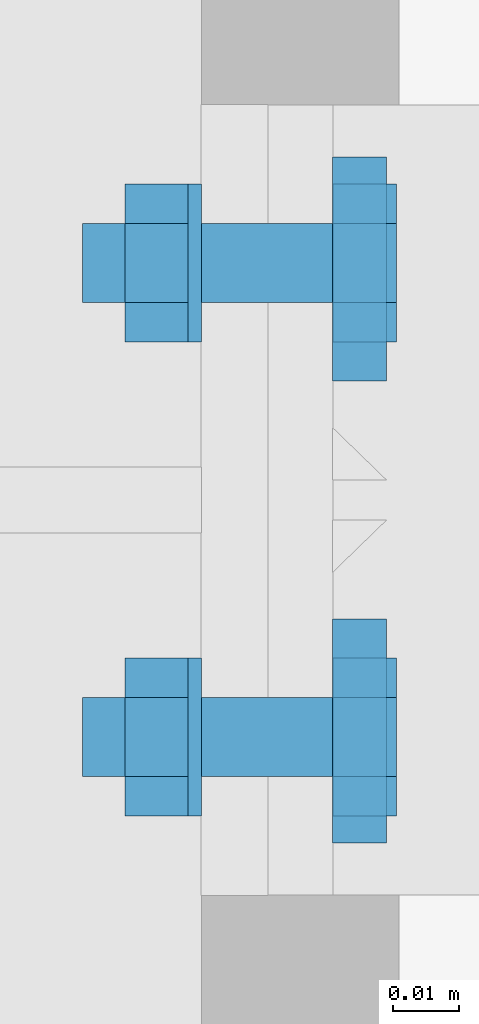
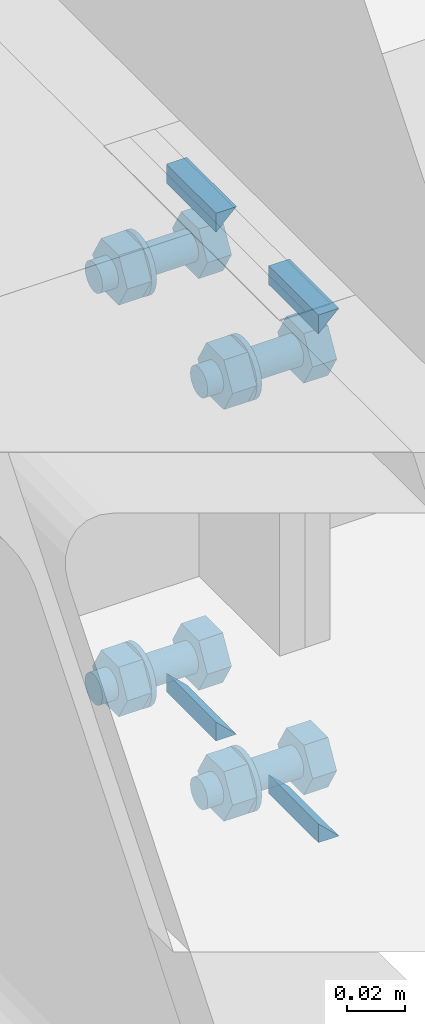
# One storey, part 28 of 66: 16 mechanical fasteners, 8 fasteners.
"""IFC4 building model written with IfcOpenShell, lengths in metres."""

from ifc_helpers import new_model, si_unit, frame, origin_with_axes, place, context, project, spatial, polyline, outline, extrude, type_object, element, save


model = new_model("IFC4")

# Units and contexts
model_context = context("Model", 3, precision=1e-05, world=origin_with_axes())
ifc_project = project(units=[si_unit("LENGTHUNIT", "METRE"), si_unit("AREAUNIT", "SQUARE_METRE"), si_unit("VOLUMEUNIT", "CUBIC_METRE"), si_unit("MASSUNIT", "GRAM", prefix="KILO"), si_unit("TIMEUNIT", "SECOND"), si_unit("PLANEANGLEUNIT", "RADIAN"), si_unit("SOLIDANGLEUNIT", "STERADIAN"), si_unit("THERMODYNAMICTEMPERATUREUNIT", "DEGREE_CELSIUS")], contexts=[model_context])

# Site, building, storey
placement_1 = place(None, origin_with_axes())
site = spatial("IfcSite", under=ifc_project, at=placement_1, Name="Italia", CompositionType="ELEMENT")
building = spatial("IfcBuilding", under=site, at=placement_1, Name="Uffici", CompositionType="ELEMENT")
storey_placement = place(None, frame((0.0, 0.0, 3.299999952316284), z_axis=(0.0, 0.0, 1.0), x_axis=(1.0, 0.0, 0.0)))
storey = spatial("IfcBuildingStorey", under=building, at=storey_placement, Name="Storey 1", CompositionType="ELEMENT", Elevation=3.299999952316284)

# Fasteners
fastener_type_1 = type_object("IfcFastenerType", Name="Collegamento -001_-002", PredefinedType="WELD")
placement_2 = place(placement_1, origin_with_axes())
fastener_1_placement = place(placement_2, origin_with_axes())
element("IfcFastener", 1, at=fastener_1_placement, inside=storey, type_object=fastener_type_1, Name="Collegamento -001_-002", context=model_context, shape_type="SweptSolid", body=[
    extrude(outline(polyline([(0.0, 0.0), (-0.00817336, 0.00792813), (0.0, 0.00792813), (0.0, 0.0)])), frame((0.13995, 1.74462, 3.28232), z_axis=(0.0, 1.0, 0.0), x_axis=(-1.0, 0.0, 0.0)), (0.0, 0.0, 1.0), 0.0339999),
])
fastener_type_2 = type_object("IfcFastenerType", Name="Collegamento -001_-002", PredefinedType="WELD")
fastener_2_placement = place(placement_2, origin_with_axes())
element("IfcFastener", 2, at=fastener_2_placement, inside=storey, type_object=fastener_type_2, Name="Collegamento -001_-002", context=model_context, shape_type="SweptSolid", body=[
    extrude(outline(polyline([(0.0, 0.0), (0.00817336, -0.00792813), (0.0, -0.00792813), (0.0, 0.0)])), frame((0.13995, 1.77862, 3.07768), z_axis=(0.0, -1.0, 0.0), x_axis=(1.0, 0.0, 0.0)), (0.0, 0.0, 1.0), 0.0339999),
])
fastener_type_3 = type_object("IfcFastenerType", Name="Collegamento -001_-002", PredefinedType="WELD")
fastener_3_placement = place(placement_2, origin_with_axes())
element("IfcFastener", 3, at=fastener_3_placement, inside=storey, type_object=fastener_type_3, Name="Collegamento -001_-002", context=model_context, shape_type="SweptSolid", body=[
    extrude(outline(polyline([(0.0, 0.0), (0.00817336, -0.00792813), (0.0, -0.00792813), (0.0, 0.0)])), frame((0.13995, 1.84872, 3.07768), z_axis=(0.0, -1.0, 0.0), x_axis=(1.0, 0.0, 0.0)), (0.0, 0.0, 1.0), 0.0339999),
])
fastener_type_4 = type_object("IfcFastenerType", Name="Collegamento -001_-002", PredefinedType="WELD")
fastener_4_placement = place(placement_2, origin_with_axes())
element("IfcFastener", 4, at=fastener_4_placement, inside=storey, type_object=fastener_type_4, Name="Collegamento -001_-002", context=model_context, shape_type="SweptSolid", body=[
    extrude(outline(polyline([(0.0, 0.0), (-0.00817336, 0.00792813), (0.0, 0.00792813), (0.0, 0.0)])), frame((0.13995, 1.81472, 3.28232), z_axis=(0.0, 1.0, 0.0), x_axis=(-1.0, 0.0, 0.0)), (0.0, 0.0, 1.0), 0.0339999),
])
fastener_type_5 = type_object("IfcFastenerType", Name="Collegamento -001_-002", PredefinedType="WELD")
fastener_5_placement = place(placement_2, origin_with_axes())
element("IfcFastener", 5, at=fastener_5_placement, inside=storey, type_object=fastener_type_5, Name="Collegamento -001_-002", context=model_context, shape_type="SweptSolid", body=[
    extrude(outline(polyline([(0.0, 0.0), (-0.00817336, 0.00792813), (0.0, 0.00792813), (0.0, 0.0)])), frame((0.13995, 1.74462, 3.28232), z_axis=(0.0, 1.0, 0.0), x_axis=(-1.0, 0.0, 0.0)), (0.0, 0.0, 1.0), 0.0339999),
])
fastener_type_6 = type_object("IfcFastenerType", Name="Collegamento -001_-002", PredefinedType="WELD")
fastener_6_placement = place(placement_2, origin_with_axes())
element("IfcFastener", 6, at=fastener_6_placement, inside=storey, type_object=fastener_type_6, Name="Collegamento -001_-002", context=model_context, shape_type="SweptSolid", body=[
    extrude(outline(polyline([(0.0, 0.0), (0.00817336, -0.00792813), (0.0, -0.00792813), (0.0, 0.0)])), frame((0.13995, 1.77862, 3.07768), z_axis=(0.0, -1.0, 0.0), x_axis=(1.0, 0.0, 0.0)), (0.0, 0.0, 1.0), 0.0339999),
])
fastener_type_7 = type_object("IfcFastenerType", Name="Collegamento -001_-002", PredefinedType="WELD")
fastener_7_placement = place(placement_2, origin_with_axes())
element("IfcFastener", 7, at=fastener_7_placement, inside=storey, type_object=fastener_type_7, Name="Collegamento -001_-002", context=model_context, shape_type="SweptSolid", body=[
    extrude(outline(polyline([(0.0, 0.0), (0.00817336, -0.00792813), (0.0, -0.00792813), (0.0, 0.0)])), frame((0.13995, 1.84872, 3.07768), z_axis=(0.0, -1.0, 0.0), x_axis=(1.0, 0.0, 0.0)), (0.0, 0.0, 1.0), 0.0339999),
])
fastener_type_8 = type_object("IfcFastenerType", Name="Collegamento -001_-002", PredefinedType="WELD")
fastener_8_placement = place(placement_2, origin_with_axes())
element("IfcFastener", 8, at=fastener_8_placement, inside=storey, type_object=fastener_type_8, Name="Collegamento -001_-002", context=model_context, shape_type="SweptSolid", body=[
    extrude(outline(polyline([(0.0, 0.0), (-0.00817336, 0.00792813), (0.0, 0.00792813), (0.0, 0.0)])), frame((0.13995, 1.81472, 3.28232), z_axis=(0.0, 1.0, 0.0), x_axis=(-1.0, 0.0, 0.0)), (0.0, 0.0, 1.0), 0.0339999),
])

# Mechanical fasteners
mechanical_fastener_type_1 = type_object("IfcMechanicalFastenerType", Name="Collegamento -001_-002", PredefinedType="BOLT")
mechanical_fastener_1_placement = place(placement_2, origin_with_axes())
element("IfcMechanicalFastener", 9, at=mechanical_fastener_1_placement, inside=storey, type_object=mechanical_fastener_type_1, Name="Collegamento -001_-002", NominalDiameter=0.0119999, context=model_context, shape_type="SweptSolid", body=[
    extrude(outline(polyline([(0.0, 0.0), (-0.0120001, 0.0), (-0.018, 0.0103924), (-0.0120001, 0.0207846), (0.0, 0.0207846), (0.00599992, 0.0103924), (0.0, 0.0)])), frame((0.14, 1.76667, 3.08361), z_axis=(1.0, 0.0, 0.0), x_axis=(0.0, 1.0, 0.0)), (0.0, 0.0, 1.0), 0.0096),
])
mechanical_fastener_type_2 = type_object("IfcMechanicalFastenerType", Name="Collegamento -001_-002", PredefinedType="BOLT")
mechanical_fastener_2_placement = place(placement_2, origin_with_axes())
element("IfcMechanicalFastener", 10, at=mechanical_fastener_2_placement, inside=storey, type_object=mechanical_fastener_type_2, Name="Collegamento -001_-002", NominalDiameter=0.012, context=model_context, shape_type="SweptSolid", body=[
    extrude(outline(polyline([(0.0, 0.0), (-0.000204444, -0.00155282), (-0.000803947, -0.00300002), (-0.00175738, -0.00424266), (-0.00300002, -0.00519609), (-0.0044471, -0.00579548), (-0.00600004, -0.00600004), (-0.00755298, -0.00579548), (-0.00900006, -0.00519609), (-0.0102427, -0.00424266), (-0.0111961, -0.00300002), (-0.0117956, -0.00155282), (-0.0120001, 0.0), (-0.0117956, 0.00155282), (-0.0111961, 0.00300002), (-0.0102427, 0.00424266), (-0.00900006, 0.00519609), (-0.00755298, 0.00579548), (-0.00600004, 0.00600004), (-0.0044471, 0.00579548), (-0.00300002, 0.00519609), (-0.00175738, 0.00424266), (-0.000803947, 0.00300002), (-0.000204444, 0.00155282), (0.0, 0.0)])), frame((0.102, 1.76667, 3.094), z_axis=(1.0, 0.0, 0.0), x_axis=(0.0, 1.0, 0.0)), (0.0, 0.0, 1.0), 0.038),
])
mechanical_fastener_type_3 = type_object("IfcMechanicalFastenerType", Name="Collegamento -001_-002", PredefinedType="BOLT")
mechanical_fastener_3_placement = place(placement_2, origin_with_axes())
element("IfcMechanicalFastener", 11, at=mechanical_fastener_3_placement, inside=storey, type_object=mechanical_fastener_type_3, Name="Collegamento -001_-002", NominalDiameter=0.0119999, context=model_context, shape_type="SweptSolid", body=[
    extrude(outline(polyline([(0.0, 0.0), (-0.0120001, 0.0), (-0.018, 0.0103924), (-0.0120001, 0.0207846), (0.0, 0.0207846), (0.00599992, 0.0103924), (0.0, 0.0)])), frame((0.1084, 1.76667, 3.08361), z_axis=(1.0, 0.0, 0.0), x_axis=(0.0, 1.0, 0.0)), (0.0, 0.0, 1.0), 0.00960001),
])
mechanical_fastener_type_4 = type_object("IfcMechanicalFastenerType", Name="Collegamento -001_-002", PredefinedType="BOLT")
mechanical_fastener_4_placement = place(placement_2, origin_with_axes())
element("IfcMechanicalFastener", 12, at=mechanical_fastener_4_placement, inside=storey, type_object=mechanical_fastener_type_4, Name="Collegamento -001_-002", NominalDiameter=0.024, context=model_context, shape_type="SweptSolid", body=[
    extrude(outline(polyline([(0.0, 0.0), (-0.000408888, -0.00310588), (-0.00160766, -0.00600004), (-0.00351465, -0.00848532), (-0.00599992, -0.0103922), (-0.00889409, -0.0115912), (-0.012, -0.0120001), (-0.0151058, -0.0115912), (-0.018, -0.0103922), (-0.0204853, -0.00848532), (-0.0223923, -0.00600004), (-0.023591, -0.00310588), (-0.0239999, 0.0), (-0.023591, 0.00310588), (-0.0223923, 0.00600004), (-0.0204853, 0.00848532), (-0.018, 0.0103922), (-0.0151058, 0.0115912), (-0.012, 0.0120001), (-0.00889409, 0.0115912), (-0.00599992, 0.0103922), (-0.00351465, 0.00848532), (-0.00160766, 0.00600004), (-0.000408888, 0.00310588), (0.0, 0.0)])), frame((0.118, 1.77267, 3.094), z_axis=(1.0, 0.0, 0.0), x_axis=(0.0, 1.0, 0.0)), (0.0, 0.0, 1.0), 0.002),
])
mechanical_fastener_type_5 = type_object("IfcMechanicalFastenerType", Name="Collegamento -001_-002", PredefinedType="BOLT")
mechanical_fastener_5_placement = place(placement_2, origin_with_axes())
element("IfcMechanicalFastener", 13, at=mechanical_fastener_5_placement, inside=storey, type_object=mechanical_fastener_type_5, Name="Collegamento -001_-002", NominalDiameter=0.0119999, context=model_context, shape_type="SweptSolid", body=[
    extrude(outline(polyline([(0.0, 0.0), (-0.0120001, 0.0), (-0.018, 0.0103924), (-0.0120001, 0.0207846), (0.0, 0.0207846), (0.00599992, 0.0103924), (0.0, 0.0)])), frame((0.14, 1.83867, 3.08361), z_axis=(1.0, 0.0, 0.0), x_axis=(0.0, 1.0, 0.0)), (0.0, 0.0, 1.0), 0.0096),
])
mechanical_fastener_type_6 = type_object("IfcMechanicalFastenerType", Name="Collegamento -001_-002", PredefinedType="BOLT")
mechanical_fastener_6_placement = place(placement_2, origin_with_axes())
element("IfcMechanicalFastener", 14, at=mechanical_fastener_6_placement, inside=storey, type_object=mechanical_fastener_type_6, Name="Collegamento -001_-002", NominalDiameter=0.012, context=model_context, shape_type="SweptSolid", body=[
    extrude(outline(polyline([(0.0, 0.0), (-0.000204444, -0.00155282), (-0.000803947, -0.00300002), (-0.00175738, -0.00424266), (-0.00300002, -0.00519609), (-0.0044471, -0.00579548), (-0.00600004, -0.00600004), (-0.00755298, -0.00579548), (-0.00900006, -0.00519609), (-0.0102427, -0.00424266), (-0.0111961, -0.00300002), (-0.0117956, -0.00155282), (-0.0120001, 0.0), (-0.0117956, 0.00155282), (-0.0111961, 0.00300002), (-0.0102427, 0.00424266), (-0.00900006, 0.00519609), (-0.00755298, 0.00579548), (-0.00600004, 0.00600004), (-0.0044471, 0.00579548), (-0.00300002, 0.00519609), (-0.00175738, 0.00424266), (-0.000803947, 0.00300002), (-0.000204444, 0.00155282), (0.0, 0.0)])), frame((0.102, 1.83867, 3.094), z_axis=(1.0, 0.0, 0.0), x_axis=(0.0, 1.0, 0.0)), (0.0, 0.0, 1.0), 0.038),
])
mechanical_fastener_type_7 = type_object("IfcMechanicalFastenerType", Name="Collegamento -001_-002", PredefinedType="BOLT")
mechanical_fastener_7_placement = place(placement_2, origin_with_axes())
element("IfcMechanicalFastener", 15, at=mechanical_fastener_7_placement, inside=storey, type_object=mechanical_fastener_type_7, Name="Collegamento -001_-002", NominalDiameter=0.0119999, context=model_context, shape_type="SweptSolid", body=[
    extrude(outline(polyline([(0.0, 0.0), (-0.0120001, 0.0), (-0.018, 0.0103924), (-0.0120001, 0.0207846), (0.0, 0.0207846), (0.00599992, 0.0103924), (0.0, 0.0)])), frame((0.1084, 1.83867, 3.08361), z_axis=(1.0, 0.0, 0.0), x_axis=(0.0, 1.0, 0.0)), (0.0, 0.0, 1.0), 0.00960001),
])
mechanical_fastener_type_8 = type_object("IfcMechanicalFastenerType", Name="Collegamento -001_-002", PredefinedType="BOLT")
mechanical_fastener_8_placement = place(placement_2, origin_with_axes())
element("IfcMechanicalFastener", 16, at=mechanical_fastener_8_placement, inside=storey, type_object=mechanical_fastener_type_8, Name="Collegamento -001_-002", NominalDiameter=0.024, context=model_context, shape_type="SweptSolid", body=[
    extrude(outline(polyline([(0.0, 0.0), (-0.000408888, -0.00310588), (-0.00160766, -0.00600004), (-0.00351465, -0.00848532), (-0.00599992, -0.0103922), (-0.00889409, -0.0115912), (-0.012, -0.0120001), (-0.0151058, -0.0115912), (-0.018, -0.0103922), (-0.0204853, -0.00848532), (-0.0223923, -0.00600004), (-0.023591, -0.00310588), (-0.0239999, 0.0), (-0.023591, 0.00310588), (-0.0223923, 0.00600004), (-0.0204853, 0.00848532), (-0.018, 0.0103922), (-0.0151058, 0.0115912), (-0.012, 0.0120001), (-0.00889409, 0.0115912), (-0.00599992, 0.0103922), (-0.00351465, 0.00848532), (-0.00160766, 0.00600004), (-0.000408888, 0.00310588), (0.0, 0.0)])), frame((0.118, 1.84467, 3.094), z_axis=(1.0, 0.0, 0.0), x_axis=(0.0, 1.0, 0.0)), (0.0, 0.0, 1.0), 0.002),
])
mechanical_fastener_type_9 = type_object("IfcMechanicalFastenerType", Name="Collegamento -001_-002", PredefinedType="BOLT")
mechanical_fastener_9_placement = place(placement_2, origin_with_axes())
element("IfcMechanicalFastener", 17, at=mechanical_fastener_9_placement, inside=storey, type_object=mechanical_fastener_type_9, Name="Collegamento -001_-002", NominalDiameter=0.0119999, context=model_context, shape_type="SweptSolid", body=[
    extrude(outline(polyline([(0.0, 0.0), (-0.0120001, 0.0), (-0.018, 0.0103922), (-0.0120001, 0.0207846), (0.0, 0.0207846), (0.00599992, 0.0103922), (0.0, 0.0)])), frame((0.14, 1.76667, 3.25561), z_axis=(1.0, 0.0, 0.0), x_axis=(0.0, 1.0, 0.0)), (0.0, 0.0, 1.0), 0.0096),
])
mechanical_fastener_type_10 = type_object("IfcMechanicalFastenerType", Name="Collegamento -001_-002", PredefinedType="BOLT")
mechanical_fastener_10_placement = place(placement_2, origin_with_axes())
element("IfcMechanicalFastener", 18, at=mechanical_fastener_10_placement, inside=storey, type_object=mechanical_fastener_type_10, Name="Collegamento -001_-002", NominalDiameter=0.012, context=model_context, shape_type="SweptSolid", body=[
    extrude(outline(polyline([(0.0, 0.0), (-0.000204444, -0.00155282), (-0.000803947, -0.00300002), (-0.00175738, -0.00424266), (-0.00300002, -0.00519609), (-0.0044471, -0.00579548), (-0.00600004, -0.00600004), (-0.00755298, -0.00579548), (-0.00900006, -0.00519609), (-0.0102427, -0.00424266), (-0.0111961, -0.00300002), (-0.0117956, -0.00155282), (-0.0120001, 0.0), (-0.0117956, 0.00155282), (-0.0111961, 0.00300002), (-0.0102427, 0.00424266), (-0.00900006, 0.00519609), (-0.00755298, 0.00579548), (-0.00600004, 0.00600004), (-0.0044471, 0.00579548), (-0.00300002, 0.00519609), (-0.00175738, 0.00424266), (-0.000803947, 0.00300002), (-0.000204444, 0.00155282), (0.0, 0.0)])), frame((0.102, 1.76667, 3.266), z_axis=(1.0, 0.0, 0.0), x_axis=(0.0, 1.0, 0.0)), (0.0, 0.0, 1.0), 0.038),
])
mechanical_fastener_type_11 = type_object("IfcMechanicalFastenerType", Name="Collegamento -001_-002", PredefinedType="BOLT")
mechanical_fastener_11_placement = place(placement_2, origin_with_axes())
element("IfcMechanicalFastener", 19, at=mechanical_fastener_11_placement, inside=storey, type_object=mechanical_fastener_type_11, Name="Collegamento -001_-002", NominalDiameter=0.0119999, context=model_context, shape_type="SweptSolid", body=[
    extrude(outline(polyline([(0.0, 0.0), (-0.0120001, 0.0), (-0.018, 0.0103922), (-0.0120001, 0.0207846), (0.0, 0.0207846), (0.00599992, 0.0103922), (0.0, 0.0)])), frame((0.1084, 1.76667, 3.25561), z_axis=(1.0, 0.0, 0.0), x_axis=(0.0, 1.0, 0.0)), (0.0, 0.0, 1.0), 0.00960001),
])
mechanical_fastener_type_12 = type_object("IfcMechanicalFastenerType", Name="Collegamento -001_-002", PredefinedType="BOLT")
mechanical_fastener_12_placement = place(placement_2, origin_with_axes())
element("IfcMechanicalFastener", 20, at=mechanical_fastener_12_placement, inside=storey, type_object=mechanical_fastener_type_12, Name="Collegamento -001_-002", NominalDiameter=0.024, context=model_context, shape_type="SweptSolid", body=[
    extrude(outline(polyline([(0.0, 0.0), (-0.000408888, -0.00310588), (-0.00160766, -0.00600004), (-0.00351465, -0.00848532), (-0.00599992, -0.0103922), (-0.00889409, -0.0115912), (-0.012, -0.0120001), (-0.0151058, -0.0115912), (-0.018, -0.0103922), (-0.0204853, -0.00848532), (-0.0223923, -0.00600004), (-0.023591, -0.00310588), (-0.0239999, 0.0), (-0.023591, 0.00310588), (-0.0223923, 0.00600004), (-0.0204853, 0.00848532), (-0.018, 0.0103922), (-0.0151058, 0.0115912), (-0.012, 0.0120001), (-0.00889409, 0.0115912), (-0.00599992, 0.0103922), (-0.00351465, 0.00848532), (-0.00160766, 0.00600004), (-0.000408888, 0.00310588), (0.0, 0.0)])), frame((0.118, 1.77267, 3.266), z_axis=(1.0, 0.0, 0.0), x_axis=(0.0, 1.0, 0.0)), (0.0, 0.0, 1.0), 0.002),
])
mechanical_fastener_type_13 = type_object("IfcMechanicalFastenerType", Name="Collegamento -001_-002", PredefinedType="BOLT")
mechanical_fastener_13_placement = place(placement_2, origin_with_axes())
element("IfcMechanicalFastener", 21, at=mechanical_fastener_13_placement, inside=storey, type_object=mechanical_fastener_type_13, Name="Collegamento -001_-002", NominalDiameter=0.0119999, context=model_context, shape_type="SweptSolid", body=[
    extrude(outline(polyline([(0.0, 0.0), (-0.0120001, 0.0), (-0.018, 0.0103922), (-0.0120001, 0.0207846), (0.0, 0.0207846), (0.00599992, 0.0103922), (0.0, 0.0)])), frame((0.14, 1.83867, 3.25561), z_axis=(1.0, 0.0, 0.0), x_axis=(0.0, 1.0, 0.0)), (0.0, 0.0, 1.0), 0.0096),
])
mechanical_fastener_type_14 = type_object("IfcMechanicalFastenerType", Name="Collegamento -001_-002", PredefinedType="BOLT")
mechanical_fastener_14_placement = place(placement_2, origin_with_axes())
element("IfcMechanicalFastener", 22, at=mechanical_fastener_14_placement, inside=storey, type_object=mechanical_fastener_type_14, Name="Collegamento -001_-002", NominalDiameter=0.012, context=model_context, shape_type="SweptSolid", body=[
    extrude(outline(polyline([(0.0, 0.0), (-0.000204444, -0.00155282), (-0.000803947, -0.00300002), (-0.00175738, -0.00424266), (-0.00300002, -0.00519609), (-0.0044471, -0.00579548), (-0.00600004, -0.00600004), (-0.00755298, -0.00579548), (-0.00900006, -0.00519609), (-0.0102427, -0.00424266), (-0.0111961, -0.00300002), (-0.0117956, -0.00155282), (-0.0120001, 0.0), (-0.0117956, 0.00155282), (-0.0111961, 0.00300002), (-0.0102427, 0.00424266), (-0.00900006, 0.00519609), (-0.00755298, 0.00579548), (-0.00600004, 0.00600004), (-0.0044471, 0.00579548), (-0.00300002, 0.00519609), (-0.00175738, 0.00424266), (-0.000803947, 0.00300002), (-0.000204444, 0.00155282), (0.0, 0.0)])), frame((0.102, 1.83867, 3.266), z_axis=(1.0, 0.0, 0.0), x_axis=(0.0, 1.0, 0.0)), (0.0, 0.0, 1.0), 0.038),
])
mechanical_fastener_type_15 = type_object("IfcMechanicalFastenerType", Name="Collegamento -001_-002", PredefinedType="BOLT")
mechanical_fastener_15_placement = place(placement_2, origin_with_axes())
element("IfcMechanicalFastener", 23, at=mechanical_fastener_15_placement, inside=storey, type_object=mechanical_fastener_type_15, Name="Collegamento -001_-002", NominalDiameter=0.0119999, context=model_context, shape_type="SweptSolid", body=[
    extrude(outline(polyline([(0.0, 0.0), (-0.0120001, 0.0), (-0.018, 0.0103922), (-0.0120001, 0.0207846), (0.0, 0.0207846), (0.00599992, 0.0103922), (0.0, 0.0)])), frame((0.1084, 1.83867, 3.25561), z_axis=(1.0, 0.0, 0.0), x_axis=(0.0, 1.0, 0.0)), (0.0, 0.0, 1.0), 0.00960001),
])
mechanical_fastener_type_16 = type_object("IfcMechanicalFastenerType", Name="Collegamento -001_-002", PredefinedType="BOLT")
mechanical_fastener_16_placement = place(placement_2, origin_with_axes())
element("IfcMechanicalFastener", 24, at=mechanical_fastener_16_placement, inside=storey, type_object=mechanical_fastener_type_16, Name="Collegamento -001_-002", NominalDiameter=0.024, context=model_context, shape_type="SweptSolid", body=[
    extrude(outline(polyline([(0.0, 0.0), (-0.000408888, -0.00310588), (-0.00160766, -0.00600004), (-0.00351465, -0.00848532), (-0.00599992, -0.0103922), (-0.00889409, -0.0115912), (-0.012, -0.0120001), (-0.0151058, -0.0115912), (-0.018, -0.0103922), (-0.0204853, -0.00848532), (-0.0223923, -0.00600004), (-0.023591, -0.00310588), (-0.0239999, 0.0), (-0.023591, 0.00310588), (-0.0223923, 0.00600004), (-0.0204853, 0.00848532), (-0.018, 0.0103922), (-0.0151058, 0.0115912), (-0.012, 0.0120001), (-0.00889409, 0.0115912), (-0.00599992, 0.0103922), (-0.00351465, 0.00848532), (-0.00160766, 0.00600004), (-0.000408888, 0.00310588), (0.0, 0.0)])), frame((0.118, 1.84467, 3.266), z_axis=(1.0, 0.0, 0.0), x_axis=(0.0, 1.0, 0.0)), (0.0, 0.0, 1.0), 0.002),
])

save(model, "model.ifc")
